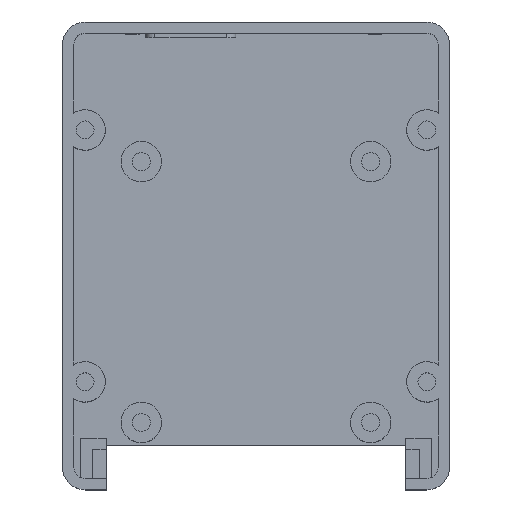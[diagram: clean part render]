
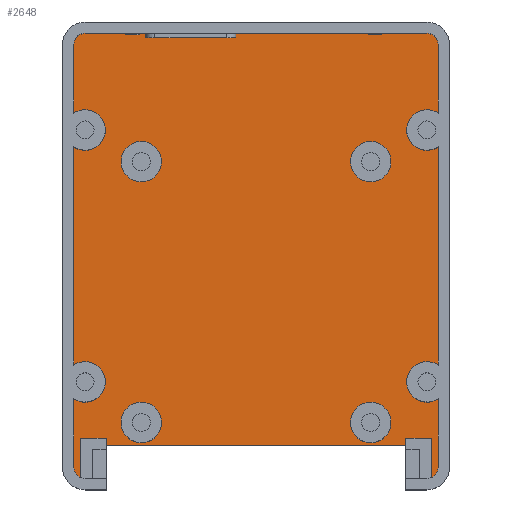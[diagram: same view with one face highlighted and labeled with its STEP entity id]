
A CAD part, top view. The second image highlights one B-rep face of the part: STEP entity #2648.
In plain terms, the highlighted planar face has unit normal (0, 0, 1).
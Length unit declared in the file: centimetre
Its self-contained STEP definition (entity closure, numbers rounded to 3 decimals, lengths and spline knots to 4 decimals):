
#17=FACE_BOUND('',#350,.T.);
#18=FACE_BOUND('',#351,.T.);
#19=FACE_BOUND('',#352,.T.);
#20=FACE_BOUND('',#353,.T.);
#89=CIRCLE('',#2811,0.25);
#91=CIRCLE('',#2817,0.45);
#92=CIRCLE('',#2818,0.45);
#93=CIRCLE('',#2819,0.25);
#94=CIRCLE('',#2820,0.25);
#95=CIRCLE('',#2821,0.45);
#96=CIRCLE('',#2822,0.45);
#97=CIRCLE('',#2823,0.25);
#98=CIRCLE('',#2824,0.45);
#99=CIRCLE('',#2825,0.45);
#100=CIRCLE('',#2826,0.45);
#101=CIRCLE('',#2827,0.45);
#204=FACE_OUTER_BOUND('',#349,.T.);
#349=EDGE_LOOP('',(#1855,#1856,#1857,#1858,#1859,#1860,#1861,#1862,#1863,
#1864,#1865,#1866,#1867,#1868,#1869,#1870,#1871,#1872,#1873,#1874,#1875,
#1876,#1877,#1878,#1879,#1880,#1881,#1882,#1883,#1884));
#350=EDGE_LOOP('',(#1885));
#351=EDGE_LOOP('',(#1886));
#352=EDGE_LOOP('',(#1887));
#353=EDGE_LOOP('',(#1888));
#533=LINE('',#3911,#827);
#545=LINE('',#3944,#839);
#550=LINE('',#3955,#844);
#553=LINE('',#3966,#847);
#556=LINE('',#3970,#850);
#558=LINE('',#3977,#852);
#559=LINE('',#3981,#853);
#560=LINE('',#3985,#854);
#561=LINE('',#3989,#855);
#562=LINE('',#3991,#856);
#563=LINE('',#3993,#857);
#564=LINE('',#3995,#858);
#565=LINE('',#3997,#859);
#566=LINE('',#3999,#860);
#567=LINE('',#4001,#861);
#568=LINE('',#4003,#862);
#569=LINE('',#4005,#863);
#570=LINE('',#4009,#864);
#571=LINE('',#4013,#865);
#572=LINE('',#4017,#866);
#573=LINE('',#4020,#867);
#574=LINE('',#4021,#868);
#827=VECTOR('',#3104,1.);
#839=VECTOR('',#3130,1.);
#844=VECTOR('',#3141,1.);
#847=VECTOR('',#3152,1.);
#850=VECTOR('',#3157,1.);
#852=VECTOR('',#3165,1.);
#853=VECTOR('',#3168,1.);
#854=VECTOR('',#3171,1.);
#855=VECTOR('',#3174,1.);
#856=VECTOR('',#3175,1.);
#857=VECTOR('',#3176,1.);
#858=VECTOR('',#3177,1.);
#859=VECTOR('',#3178,1.);
#860=VECTOR('',#3179,1.);
#861=VECTOR('',#3180,1.);
#862=VECTOR('',#3181,1.);
#863=VECTOR('',#3182,1.);
#864=VECTOR('',#3185,1.);
#865=VECTOR('',#3188,1.);
#866=VECTOR('',#3191,1.);
#867=VECTOR('',#3194,1.);
#868=VECTOR('',#3195,1.);
#1111=VERTEX_POINT('',#3908);
#1112=VERTEX_POINT('',#3910);
#1124=VERTEX_POINT('',#3940);
#1126=VERTEX_POINT('',#3943);
#1129=VERTEX_POINT('',#3954);
#1131=VERTEX_POINT('',#3960);
#1132=VERTEX_POINT('',#3964);
#1133=VERTEX_POINT('',#3965);
#1135=VERTEX_POINT('',#3976);
#1136=VERTEX_POINT('',#3978);
#1137=VERTEX_POINT('',#3980);
#1138=VERTEX_POINT('',#3982);
#1139=VERTEX_POINT('',#3984);
#1140=VERTEX_POINT('',#3986);
#1141=VERTEX_POINT('',#3988);
#1142=VERTEX_POINT('',#3990);
#1143=VERTEX_POINT('',#3992);
#1144=VERTEX_POINT('',#3994);
#1145=VERTEX_POINT('',#3996);
#1146=VERTEX_POINT('',#3998);
#1147=VERTEX_POINT('',#4000);
#1148=VERTEX_POINT('',#4002);
#1149=VERTEX_POINT('',#4004);
#1150=VERTEX_POINT('',#4006);
#1151=VERTEX_POINT('',#4008);
#1152=VERTEX_POINT('',#4010);
#1153=VERTEX_POINT('',#4012);
#1154=VERTEX_POINT('',#4014);
#1155=VERTEX_POINT('',#4016);
#1156=VERTEX_POINT('',#4019);
#1157=VERTEX_POINT('',#4022);
#1158=VERTEX_POINT('',#4024);
#1159=VERTEX_POINT('',#4026);
#1160=VERTEX_POINT('',#4028);
#1386=EDGE_CURVE('',#1112,#1111,#533,.T.);
#1402=EDGE_CURVE('',#1126,#1124,#545,.T.);
#1408=EDGE_CURVE('',#1129,#1126,#550,.T.);
#1412=EDGE_CURVE('',#1131,#1124,#89,.T.);
#1413=EDGE_CURVE('',#1132,#1133,#553,.T.);
#1416=EDGE_CURVE('',#1133,#1112,#556,.T.);
#1419=EDGE_CURVE('',#1135,#1131,#558,.T.);
#1420=EDGE_CURVE('',#1136,#1135,#91,.T.);
#1421=EDGE_CURVE('',#1137,#1136,#559,.T.);
#1422=EDGE_CURVE('',#1138,#1137,#92,.T.);
#1423=EDGE_CURVE('',#1139,#1138,#560,.T.);
#1424=EDGE_CURVE('',#1140,#1139,#93,.T.);
#1425=EDGE_CURVE('',#1141,#1140,#561,.T.);
#1426=EDGE_CURVE('',#1142,#1141,#562,.T.);
#1427=EDGE_CURVE('',#1143,#1142,#563,.T.);
#1428=EDGE_CURVE('',#1144,#1143,#564,.T.);
#1429=EDGE_CURVE('',#1145,#1144,#565,.T.);
#1430=EDGE_CURVE('',#1146,#1145,#566,.T.);
#1431=EDGE_CURVE('',#1147,#1146,#567,.T.);
#1432=EDGE_CURVE('',#1148,#1147,#568,.T.);
#1433=EDGE_CURVE('',#1149,#1148,#569,.T.);
#1434=EDGE_CURVE('',#1150,#1149,#94,.T.);
#1435=EDGE_CURVE('',#1151,#1150,#570,.T.);
#1436=EDGE_CURVE('',#1152,#1151,#95,.T.);
#1437=EDGE_CURVE('',#1153,#1152,#571,.T.);
#1438=EDGE_CURVE('',#1154,#1153,#96,.T.);
#1439=EDGE_CURVE('',#1155,#1154,#572,.T.);
#1440=EDGE_CURVE('',#1132,#1155,#97,.T.);
#1441=EDGE_CURVE('',#1111,#1156,#573,.T.);
#1442=EDGE_CURVE('',#1156,#1129,#574,.T.);
#1443=EDGE_CURVE('',#1157,#1157,#98,.T.);
#1444=EDGE_CURVE('',#1158,#1158,#99,.T.);
#1445=EDGE_CURVE('',#1159,#1159,#100,.T.);
#1446=EDGE_CURVE('',#1160,#1160,#101,.T.);
#1855=ORIENTED_EDGE('',*,*,#1402,.T.);
#1856=ORIENTED_EDGE('',*,*,#1412,.F.);
#1857=ORIENTED_EDGE('',*,*,#1419,.F.);
#1858=ORIENTED_EDGE('',*,*,#1420,.F.);
#1859=ORIENTED_EDGE('',*,*,#1421,.F.);
#1860=ORIENTED_EDGE('',*,*,#1422,.F.);
#1861=ORIENTED_EDGE('',*,*,#1423,.F.);
#1862=ORIENTED_EDGE('',*,*,#1424,.F.);
#1863=ORIENTED_EDGE('',*,*,#1425,.F.);
#1864=ORIENTED_EDGE('',*,*,#1426,.F.);
#1865=ORIENTED_EDGE('',*,*,#1427,.F.);
#1866=ORIENTED_EDGE('',*,*,#1428,.F.);
#1867=ORIENTED_EDGE('',*,*,#1429,.F.);
#1868=ORIENTED_EDGE('',*,*,#1430,.F.);
#1869=ORIENTED_EDGE('',*,*,#1431,.F.);
#1870=ORIENTED_EDGE('',*,*,#1432,.F.);
#1871=ORIENTED_EDGE('',*,*,#1433,.F.);
#1872=ORIENTED_EDGE('',*,*,#1434,.F.);
#1873=ORIENTED_EDGE('',*,*,#1435,.F.);
#1874=ORIENTED_EDGE('',*,*,#1436,.F.);
#1875=ORIENTED_EDGE('',*,*,#1437,.F.);
#1876=ORIENTED_EDGE('',*,*,#1438,.F.);
#1877=ORIENTED_EDGE('',*,*,#1439,.F.);
#1878=ORIENTED_EDGE('',*,*,#1440,.F.);
#1879=ORIENTED_EDGE('',*,*,#1413,.T.);
#1880=ORIENTED_EDGE('',*,*,#1416,.T.);
#1881=ORIENTED_EDGE('',*,*,#1386,.T.);
#1882=ORIENTED_EDGE('',*,*,#1441,.T.);
#1883=ORIENTED_EDGE('',*,*,#1442,.T.);
#1884=ORIENTED_EDGE('',*,*,#1408,.T.);
#1885=ORIENTED_EDGE('',*,*,#1443,.F.);
#1886=ORIENTED_EDGE('',*,*,#1444,.F.);
#1887=ORIENTED_EDGE('',*,*,#1445,.F.);
#1888=ORIENTED_EDGE('',*,*,#1446,.F.);
#2549=PLANE('',#2816);
#2648=ADVANCED_FACE('',(#204,#17,#18,#19,#20),#2549,.F.);
#2811=AXIS2_PLACEMENT_3D('',#3962,#3148,#3149);
#2816=AXIS2_PLACEMENT_3D('',#3975,#3163,#3164);
#2817=AXIS2_PLACEMENT_3D('',#3979,#3166,#3167);
#2818=AXIS2_PLACEMENT_3D('',#3983,#3169,#3170);
#2819=AXIS2_PLACEMENT_3D('',#3987,#3172,#3173);
#2820=AXIS2_PLACEMENT_3D('',#4007,#3183,#3184);
#2821=AXIS2_PLACEMENT_3D('',#4011,#3186,#3187);
#2822=AXIS2_PLACEMENT_3D('',#4015,#3189,#3190);
#2823=AXIS2_PLACEMENT_3D('',#4018,#3192,#3193);
#2824=AXIS2_PLACEMENT_3D('',#4023,#3196,#3197);
#2825=AXIS2_PLACEMENT_3D('',#4025,#3198,#3199);
#2826=AXIS2_PLACEMENT_3D('',#4027,#3200,#3201);
#2827=AXIS2_PLACEMENT_3D('',#4029,#3202,#3203);
#3104=DIRECTION('',(0.,-1.,0.));
#3130=DIRECTION('',(0.,-1.,0.));
#3141=DIRECTION('',(1.,0.,0.));
#3148=DIRECTION('center_axis',(0.,0.,-1.));
#3149=DIRECTION('ref_axis',(1.,0.,0.));
#3152=DIRECTION('',(0.,1.,0.));
#3157=DIRECTION('',(1.,0.,0.));
#3163=DIRECTION('center_axis',(0.,0.,-1.));
#3164=DIRECTION('ref_axis',(-1.,0.,0.));
#3165=DIRECTION('',(0.,-1.,0.));
#3166=DIRECTION('center_axis',(0.,0.,1.));
#3167=DIRECTION('ref_axis',(-1.,0.,0.));
#3168=DIRECTION('',(0.,-1.,0.));
#3169=DIRECTION('center_axis',(0.,0.,1.));
#3170=DIRECTION('ref_axis',(-1.,0.,0.));
#3171=DIRECTION('',(0.,-1.,0.));
#3172=DIRECTION('center_axis',(0.,0.,-1.));
#3173=DIRECTION('ref_axis',(0.,1.,0.));
#3174=DIRECTION('',(1.,0.,0.));
#3175=DIRECTION('',(0.,1.,0.));
#3176=DIRECTION('',(1.,0.,0.));
#3177=DIRECTION('',(0.,-1.,0.));
#3178=DIRECTION('',(1.,0.,0.));
#3179=DIRECTION('',(0.,1.,0.));
#3180=DIRECTION('',(1.,0.,0.));
#3181=DIRECTION('',(0.,-1.,0.));
#3182=DIRECTION('',(1.,0.,0.));
#3183=DIRECTION('center_axis',(0.,0.,-1.));
#3184=DIRECTION('ref_axis',(-1.,0.,0.));
#3185=DIRECTION('',(0.,1.,0.));
#3186=DIRECTION('center_axis',(0.,0.,1.));
#3187=DIRECTION('ref_axis',(-1.,0.,0.));
#3188=DIRECTION('',(0.,1.,0.));
#3189=DIRECTION('center_axis',(0.,0.,1.));
#3190=DIRECTION('ref_axis',(-1.,0.,0.));
#3191=DIRECTION('',(0.,1.,0.));
#3192=DIRECTION('center_axis',(0.,0.,-1.));
#3193=DIRECTION('ref_axis',(0.,-1.,0.));
#3194=DIRECTION('',(1.,0.,0.));
#3195=DIRECTION('',(0.,1.,0.));
#3196=DIRECTION('center_axis',(0.,0.,1.));
#3197=DIRECTION('ref_axis',(-1.,0.,0.));
#3198=DIRECTION('center_axis',(0.,0.,1.));
#3199=DIRECTION('ref_axis',(-1.,0.,0.));
#3200=DIRECTION('center_axis',(0.,0.,1.));
#3201=DIRECTION('ref_axis',(-1.,0.,0.));
#3202=DIRECTION('center_axis',(0.,0.,1.));
#3203=DIRECTION('ref_axis',(-1.,0.,0.));
#3908=CARTESIAN_POINT('',(-3.33,-4.2,0.25));
#3910=CARTESIAN_POINT('',(-3.33,-4.05,0.25));
#3911=CARTESIAN_POINT('',(-3.33,-2.6,0.25));
#3940=CARTESIAN_POINT('',(3.9,-4.9291,0.25));
#3943=CARTESIAN_POINT('',(3.9,-4.05,0.25));
#3944=CARTESIAN_POINT('',(3.9,-2.6,0.25));
#3954=CARTESIAN_POINT('',(3.33,-4.05,0.25));
#3955=CARTESIAN_POINT('',(1.95,-4.05,0.25));
#3960=CARTESIAN_POINT('',(4.05,-4.7,0.25));
#3962=CARTESIAN_POINT('Origin',(3.8,-4.7,0.25));
#3964=CARTESIAN_POINT('',(-3.9,-4.9291,0.25));
#3965=CARTESIAN_POINT('',(-3.9,-4.05,0.25));
#3966=CARTESIAN_POINT('',(-3.9,-2.025,0.25));
#3970=CARTESIAN_POINT('',(-1.665,-4.05,0.25));
#3975=CARTESIAN_POINT('Origin',(0.,0.,0.25));
#3976=CARTESIAN_POINT('',(4.05,-3.1742,0.25));
#3977=CARTESIAN_POINT('',(4.05,4.7,0.25));
#3978=CARTESIAN_POINT('',(4.05,-2.4258,0.25));
#3979=CARTESIAN_POINT('Origin',(3.8,-2.8,0.25));
#3980=CARTESIAN_POINT('',(4.05,2.4258,0.25));
#3981=CARTESIAN_POINT('',(4.05,4.7,0.25));
#3982=CARTESIAN_POINT('',(4.05,3.1742,0.25));
#3983=CARTESIAN_POINT('Origin',(3.8,2.8,0.25));
#3984=CARTESIAN_POINT('',(4.05,4.7,0.25));
#3985=CARTESIAN_POINT('',(4.05,4.7,0.25));
#3986=CARTESIAN_POINT('',(3.8,4.95,0.25));
#3987=CARTESIAN_POINT('Origin',(3.8,4.7,0.25));
#3988=CARTESIAN_POINT('',(2.8,4.95,0.25));
#3989=CARTESIAN_POINT('',(-3.8,4.95,0.25));
#3990=CARTESIAN_POINT('',(2.8,4.92,0.25));
#3991=CARTESIAN_POINT('',(2.8,2.525,0.25));
#3992=CARTESIAN_POINT('',(2.5,4.92,0.25));
#3993=CARTESIAN_POINT('',(1.4,4.92,0.25));
#3994=CARTESIAN_POINT('',(2.5,4.95,0.25));
#3995=CARTESIAN_POINT('',(2.5,2.46,0.25));
#3996=CARTESIAN_POINT('',(-2.6,4.95,0.25));
#3997=CARTESIAN_POINT('',(-3.8,4.95,0.25));
#3998=CARTESIAN_POINT('',(-2.6,4.92,0.25));
#3999=CARTESIAN_POINT('',(-2.6,2.525,0.25));
#4000=CARTESIAN_POINT('',(-2.9,4.92,0.25));
#4001=CARTESIAN_POINT('',(-1.3,4.92,0.25));
#4002=CARTESIAN_POINT('',(-2.9,4.95,0.25));
#4003=CARTESIAN_POINT('',(-2.9,2.46,0.25));
#4004=CARTESIAN_POINT('',(-3.8,4.95,0.25));
#4005=CARTESIAN_POINT('',(-3.8,4.95,0.25));
#4006=CARTESIAN_POINT('',(-4.05,4.7,0.25));
#4007=CARTESIAN_POINT('Origin',(-3.8,4.7,0.25));
#4008=CARTESIAN_POINT('',(-4.05,3.1742,0.25));
#4009=CARTESIAN_POINT('',(-4.05,-4.7,0.25));
#4010=CARTESIAN_POINT('',(-4.05,2.4258,0.25));
#4011=CARTESIAN_POINT('Origin',(-3.8,2.8,0.25));
#4012=CARTESIAN_POINT('',(-4.05,-2.4258,0.25));
#4013=CARTESIAN_POINT('',(-4.05,-4.7,0.25));
#4014=CARTESIAN_POINT('',(-4.05,-3.1742,0.25));
#4015=CARTESIAN_POINT('Origin',(-3.8,-2.8,0.25));
#4016=CARTESIAN_POINT('',(-4.05,-4.7,0.25));
#4017=CARTESIAN_POINT('',(-4.05,-4.7,0.25));
#4018=CARTESIAN_POINT('Origin',(-3.8,-4.7,0.25));
#4019=CARTESIAN_POINT('',(3.33,-4.2,0.25));
#4020=CARTESIAN_POINT('',(1.665,-4.2,0.25));
#4021=CARTESIAN_POINT('',(3.33,-2.025,0.25));
#4022=CARTESIAN_POINT('',(-2.1,2.1,0.25));
#4023=CARTESIAN_POINT('Origin',(-2.55,2.1,0.25));
#4024=CARTESIAN_POINT('',(3.,-3.7,0.25));
#4025=CARTESIAN_POINT('Origin',(2.55,-3.7,0.25));
#4026=CARTESIAN_POINT('',(3.,2.1,0.25));
#4027=CARTESIAN_POINT('Origin',(2.55,2.1,0.25));
#4028=CARTESIAN_POINT('',(-2.1,-3.7,0.25));
#4029=CARTESIAN_POINT('Origin',(-2.55,-3.7,0.25));
